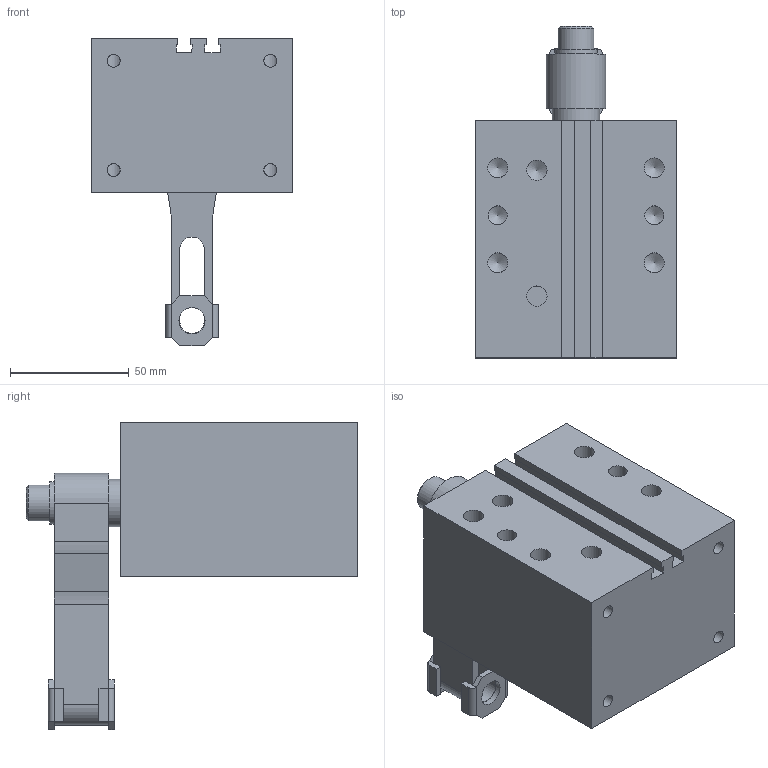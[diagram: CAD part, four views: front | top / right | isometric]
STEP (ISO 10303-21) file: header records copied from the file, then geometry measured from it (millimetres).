
FILE_DESCRIPTION (( 'STEP AP214' ), '1' );
FILE_NAME ('875-50-20-L-A.step', '2022-05-16T05:48:03', ( '' ), ( '' ), 'SwSTEP 2.0', 'SolidWorks 2019', '' );
FILE_SCHEMA (( 'AUTOMOTIVE_DESIGN' ));
Length unit declared in the file: millimetre
Products named in the file (4): WB875_Zylinder^WB875_50-L; WB875_Kolben^WB875_50-L-A; Speedy_ Scheibe_M10; 875-50-20-L-A
Assembly tree (4 placements, depth 2):
  875-50-20-L-A
    WB875_Zylinder^WB875_50-L
    WB875_Kolben^WB875_50-L-A
    Speedy_ Scheibe_M10  x2
Bounding box: 85 x 139.8 x 129.5 mm (x, y, z)
Volume: 516670.4 mm3; surface area: 88374.8 mm2
Topology: 4 solids, 5 shells, 151 faces, 380 edges, 244 vertices
Faces by surface type: plane 87, cylinder 47, cone 17
Full cylindrical faces by diameter (mm): 5.5 x12, 8 x4, 8.4 x9, 8.566 x2, 11 x2, 15 x1, 18 x1, 20 x2, 50 x1
Entity records: 5190 total; most frequent: CARTESIAN_POINT 1768, DIRECTION 585, ORIENTED_EDGE 522, EDGE_CURVE 261, EDGE_LOOP 214, AXIS2_PLACEMENT_3D 210, VERTEX_POINT 193, VECTOR 165
